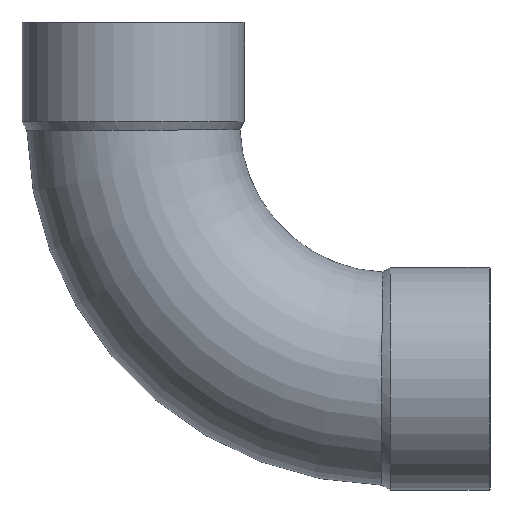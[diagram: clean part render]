
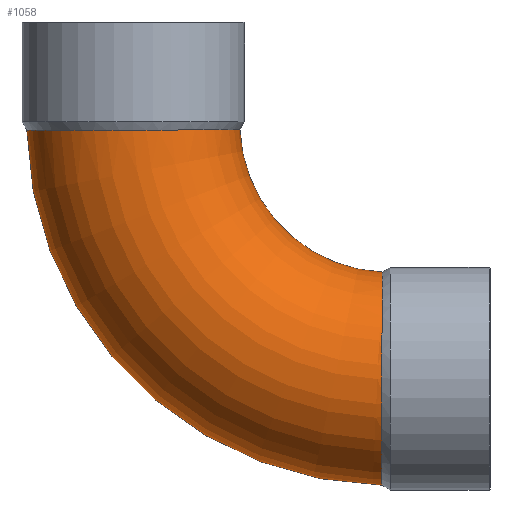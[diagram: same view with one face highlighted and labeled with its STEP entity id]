
A CAD part, front view. The second image highlights one B-rep face of the part: STEP entity #1058.
In plain terms, the highlighted toroidal (fillet/blend) face has major radius 96 mm and minor radius 40 mm.
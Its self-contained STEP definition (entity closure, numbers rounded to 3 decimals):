
#49=CARTESIAN_POINT('',(-113.939,0.,-2.645));
#50=VERTEX_POINT('',#49);
#51=CARTESIAN_POINT('',(19.391,0.,-135.974));
#52=VERTEX_POINT('',#51);
#53=CARTESIAN_POINT('',(22.035,0.,0.0));
#54=DIRECTION('',(0.0,-1.0,0.0));
#55=DIRECTION('',(0.0,0.0,-1.0));
#56=AXIS2_PLACEMENT_3D('',#53,#54,#55);
#57=CIRCLE('',#56,136.0);
#58=EDGE_CURVE('',#50,#52,#57,.T.);
#60=CARTESIAN_POINT('',(-33.909,0.,-2.503));
#61=VERTEX_POINT('',#60);
#85=CARTESIAN_POINT('',(19.532,0.,-55.944));
#86=VERTEX_POINT('',#85);
#87=CARTESIAN_POINT('',(22.035,0.,0.0));
#88=DIRECTION('',(0.0,1.0,0.0));
#89=DIRECTION('',(0.0,0.0,-1.0));
#90=AXIS2_PLACEMENT_3D('',#87,#88,#89);
#91=CIRCLE('',#90,56.0);
#92=EDGE_CURVE('',#86,#61,#91,.T.);
#224=CARTESIAN_POINT('',(-33.909,0.,-2.503));
#225=CARTESIAN_POINT('',(-33.909,-0.348,-2.503));
#226=CARTESIAN_POINT('',(-33.914,-0.696,-2.503));
#227=CARTESIAN_POINT('',(-34.059,-6.249,-2.504));
#228=CARTESIAN_POINT('',(-35.211,-11.378,-2.508));
#229=CARTESIAN_POINT('',(-39.417,-20.909,-2.523));
#230=CARTESIAN_POINT('',(-42.433,-25.219,-2.533));
#231=CARTESIAN_POINT('',(-49.948,-32.443,-2.553));
#232=CARTESIAN_POINT('',(-54.376,-35.286,-2.564));
#233=CARTESIAN_POINT('',(-64.072,-39.116,-2.584));
#234=CARTESIAN_POINT('',(-69.247,-40.065,-2.593));
#235=CARTESIAN_POINT('',(-79.669,-39.928,-2.609));
#236=CARTESIAN_POINT('',(-84.816,-38.842,-2.615));
#237=CARTESIAN_POINT('',(-94.402,-34.759,-2.626));
#238=CARTESIAN_POINT('',(-98.751,-31.802,-2.631));
#239=CARTESIAN_POINT('',(-106.068,-24.388,-2.638));
#240=CARTESIAN_POINT('',(-108.968,-20.002,-2.64));
#241=CARTESIAN_POINT('',(-112.922,-10.366,-2.644));
#242=CARTESIAN_POINT('',(-113.939,-5.208,-2.645));
#243=CARTESIAN_POINT('',(-113.939,0.,-2.645));
#244=B_SPLINE_CURVE_WITH_KNOTS('',3,(#224,#225,#226,#227,#228,#229,#230,#231,#232,#233,#234,#235,#236,#237,#238,#239,#240,#241,#242,#243),.UNSPECIFIED.,.F.,.U.,(4,2,2,2,2,2,2,2,2,4),(-12.608,-12.503,-10.941,-9.378,-7.814,-6.251,-4.687,-3.125,-1.562,0.0),.UNSPECIFIED.);
#245=EDGE_CURVE('',#61,#50,#244,.T.);
#1025=CARTESIAN_POINT('',(22.035,0.,0.0));
#1026=DIRECTION('',(0.0,-1.0,0.0));
#1027=DIRECTION('',(0.0,0.0,-1.0));
#1028=AXIS2_PLACEMENT_3D('',#1025,#1026,#1027);
#1029=TOROIDAL_SURFACE('',#1028,96.0,40.0);
#1030=ORIENTED_EDGE('',*,*,#58,.T.);
#1031=CARTESIAN_POINT('',(19.391,0.,-135.974));
#1032=CARTESIAN_POINT('',(19.391,-2.949,-135.974));
#1033=CARTESIAN_POINT('',(19.391,-5.888,-135.648));
#1034=CARTESIAN_POINT('',(19.392,-11.642,-134.356));
#1035=CARTESIAN_POINT('',(19.393,-14.439,-133.393));
#1036=CARTESIAN_POINT('',(19.396,-21.813,-129.904));
#1037=CARTESIAN_POINT('',(19.398,-26.041,-126.778));
#1038=CARTESIAN_POINT('',(19.406,-33.062,-119.08));
#1039=CARTESIAN_POINT('',(19.411,-35.788,-114.581));
#1040=CARTESIAN_POINT('',(19.422,-39.361,-104.791));
#1041=CARTESIAN_POINT('',(19.429,-40.175,-99.592));
#1042=CARTESIAN_POINT('',(19.446,-39.763,-89.176));
#1043=CARTESIAN_POINT('',(19.455,-38.542,-84.057));
#1044=CARTESIAN_POINT('',(19.475,-34.206,-74.577));
#1045=CARTESIAN_POINT('',(19.486,-31.134,-70.306));
#1046=CARTESIAN_POINT('',(19.506,-23.529,-63.186));
#1047=CARTESIAN_POINT('',(19.516,-19.07,-60.403));
#1048=CARTESIAN_POINT('',(19.528,-9.663,-56.827));
#1049=CARTESIAN_POINT('',(19.532,-4.85,-55.944));
#1050=CARTESIAN_POINT('',(19.532,0.,-55.944));
#1051=B_SPLINE_CURVE_WITH_KNOTS('',3,(#1031,#1032,#1033,#1034,#1035,#1036,#1037,#1038,#1039,#1040,#1041,#1042,#1043,#1044,#1045,#1046,#1047,#1048,#1049,#1050),.UNSPECIFIED.,.F.,.U.,(4,2,2,2,2,2,2,2,2,4),(-25.213,-24.328,-23.443,-21.881,-20.318,-18.754,-17.19,-15.627,-14.065,-12.608),.UNSPECIFIED.);
#1052=EDGE_CURVE('',#52,#86,#1051,.T.);
#1053=ORIENTED_EDGE('',*,*,#1052,.T.);
#1054=ORIENTED_EDGE('',*,*,#92,.T.);
#1055=ORIENTED_EDGE('',*,*,#245,.T.);
#1056=EDGE_LOOP('',(#1030,#1053,#1054,#1055));
#1057=FACE_OUTER_BOUND('',#1056,.T.);
#1058=ADVANCED_FACE('',(#1057),#1029,.T.);
